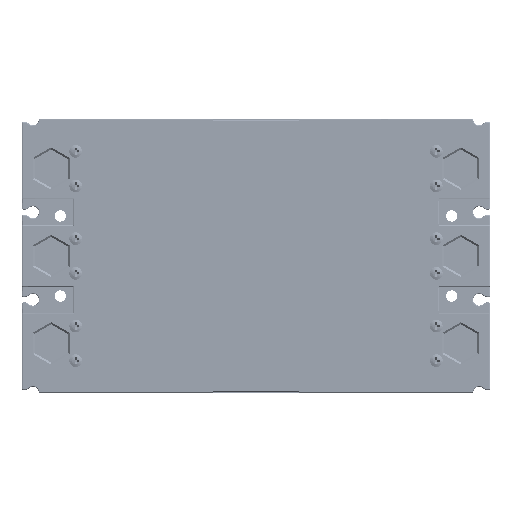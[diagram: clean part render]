
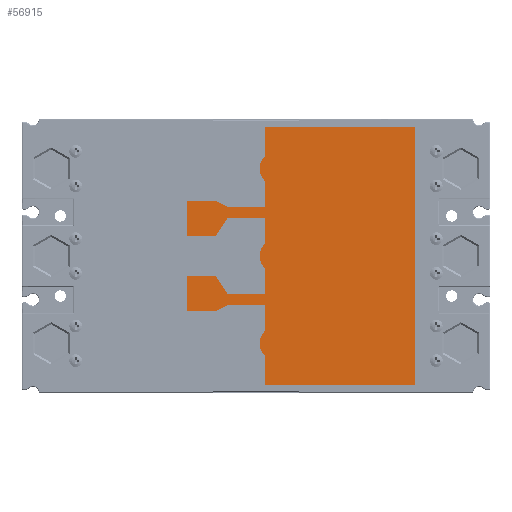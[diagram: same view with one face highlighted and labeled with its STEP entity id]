
A CAD part, front view. The second image highlights one B-rep face of the part: STEP entity #56915.
In plain terms, the highlighted planar face has unit normal (0, -1, 0) as drawn and (0, 0, 1) by its records, which use the part's own axes.
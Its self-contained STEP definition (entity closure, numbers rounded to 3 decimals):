
#56412=DIRECTION('',(0.,1.,0.));
#56413=VECTOR('',#56412,20.5);
#56414=CARTESIAN_POINT('',(27.1,82.5,0.8));
#56415=LINE('',#56414,#56413);
#56416=DIRECTION('',(-1.,0.,0.));
#56417=VECTOR('',#56416,13.972);
#56418=CARTESIAN_POINT('',(41.072,82.5,0.8));
#56419=LINE('',#56418,#56417);
#56420=CARTESIAN_POINT('',(48.,76.,0.8));
#56421=DIRECTION('',(0.,0.,1.));
#56422=DIRECTION('',(0.729,0.684,0.));
#56423=AXIS2_PLACEMENT_3D('',#56420,#56421,#56422);
#56425=DIRECTION('',(-1.,0.,0.));
#56426=VECTOR('',#56425,16.072);
#56427=CARTESIAN_POINT('',(71.,82.5,0.8));
#56428=LINE('',#56427,#56426);
#56429=DIRECTION('',(0.,1.,0.));
#56430=VECTOR('',#56429,82.5);
#56431=CARTESIAN_POINT('',(71.,0.,0.8));
#56432=LINE('',#56431,#56430);
#56433=DIRECTION('',(-1.,0.,0.));
#56434=VECTOR('',#56433,142.);
#56435=CARTESIAN_POINT('',(71.,0.,0.8));
#56436=LINE('',#56435,#56434);
#56437=DIRECTION('',(0.,-1.,0.));
#56438=VECTOR('',#56437,82.5);
#56439=CARTESIAN_POINT('',(-71.,82.5,0.8));
#56440=LINE('',#56439,#56438);
#56441=DIRECTION('',(-1.,0.,0.));
#56442=VECTOR('',#56441,16.072);
#56443=CARTESIAN_POINT('',(-54.928,82.5,0.8));
#56444=LINE('',#56443,#56442);
#56445=CARTESIAN_POINT('',(-48.,76.,0.8));
#56446=DIRECTION('',(0.,0.,1.));
#56447=DIRECTION('',(0.729,0.684,0.));
#56448=AXIS2_PLACEMENT_3D('',#56445,#56446,#56447);
#56450=DIRECTION('',(-1.,0.,0.));
#56451=VECTOR('',#56450,13.972);
#56452=CARTESIAN_POINT('',(-27.1,82.5,0.8));
#56453=LINE('',#56452,#56451);
#56454=DIRECTION('',(0.,-1.,0.));
#56455=VECTOR('',#56454,20.5);
#56456=CARTESIAN_POINT('',(-27.1,103.,0.8));
#56457=LINE('',#56456,#56455);
#56458=DIRECTION('',(0.436,-0.9,0.));
#56459=VECTOR('',#56458,7.223);
#56460=CARTESIAN_POINT('',(-30.25,109.5,0.8));
#56461=LINE('',#56460,#56459);
#56462=DIRECTION('',(0.,-1.,0.));
#56463=VECTOR('',#56462,16.);
#56464=CARTESIAN_POINT('',(-30.25,125.5,0.8));
#56465=LINE('',#56464,#56463);
#56466=DIRECTION('',(-1.,0.,0.));
#56467=VECTOR('',#56466,19.);
#56468=CARTESIAN_POINT('',(-11.25,125.5,0.8));
#56469=LINE('',#56468,#56467);
#56470=DIRECTION('',(0.,1.,0.));
#56471=VECTOR('',#56470,16.);
#56472=CARTESIAN_POINT('',(-11.25,109.5,0.8));
#56473=LINE('',#56472,#56471);
#56474=DIRECTION('',(0.829,0.559,0.));
#56475=VECTOR('',#56474,11.635);
#56476=CARTESIAN_POINT('',(-20.9,103.,0.8));
#56477=LINE('',#56476,#56475);
#56478=DIRECTION('',(0.,1.,0.));
#56479=VECTOR('',#56478,20.5);
#56480=CARTESIAN_POINT('',(-20.9,82.5,0.8));
#56481=LINE('',#56480,#56479);
#56482=DIRECTION('',(-1.,0.,0.));
#56483=VECTOR('',#56482,13.972);
#56484=CARTESIAN_POINT('',(-6.928,82.5,0.8));
#56485=LINE('',#56484,#56483);
#56486=CARTESIAN_POINT('',(0.,76.,0.8));
#56487=DIRECTION('',(0.,0.,1.));
#56488=DIRECTION('',(0.729,0.684,0.));
#56489=AXIS2_PLACEMENT_3D('',#56486,#56487,#56488);
#56491=DIRECTION('',(-1.,0.,0.));
#56492=VECTOR('',#56491,13.972);
#56493=CARTESIAN_POINT('',(20.9,82.5,0.8));
#56494=LINE('',#56493,#56492);
#56495=DIRECTION('',(0.,-1.,0.));
#56496=VECTOR('',#56495,20.5);
#56497=CARTESIAN_POINT('',(20.9,103.,0.8));
#56498=LINE('',#56497,#56496);
#56499=DIRECTION('',(0.829,-0.559,0.));
#56500=VECTOR('',#56499,11.635);
#56501=CARTESIAN_POINT('',(11.25,109.5,0.8));
#56502=LINE('',#56501,#56500);
#56503=DIRECTION('',(0.,-1.,0.));
#56504=VECTOR('',#56503,16.);
#56505=CARTESIAN_POINT('',(11.25,125.5,0.8));
#56506=LINE('',#56505,#56504);
#56507=DIRECTION('',(-1.,0.,0.));
#56508=VECTOR('',#56507,19.);
#56509=CARTESIAN_POINT('',(30.25,125.5,0.8));
#56510=LINE('',#56509,#56508);
#56511=DIRECTION('',(0.,1.,0.));
#56512=VECTOR('',#56511,16.);
#56513=CARTESIAN_POINT('',(30.25,109.5,0.8));
#56514=LINE('',#56513,#56512);
#56515=DIRECTION('',(0.436,0.9,0.));
#56516=VECTOR('',#56515,7.223);
#56517=CARTESIAN_POINT('',(27.1,103.,0.8));
#56518=LINE('',#56517,#56516);
#56623=CARTESIAN_POINT('',(-20.9,103.,0.8));
#56624=CARTESIAN_POINT('',(-11.25,109.5,0.8));
#56625=VERTEX_POINT('',#56623);
#56626=VERTEX_POINT('',#56624);
#56627=CARTESIAN_POINT('',(-11.25,125.5,0.8));
#56628=VERTEX_POINT('',#56627);
#56629=CARTESIAN_POINT('',(-30.25,125.5,0.8));
#56630=VERTEX_POINT('',#56629);
#56631=CARTESIAN_POINT('',(-30.25,109.5,0.8));
#56632=VERTEX_POINT('',#56631);
#56633=CARTESIAN_POINT('',(-27.1,103.,0.8));
#56634=VERTEX_POINT('',#56633);
#56635=CARTESIAN_POINT('',(27.1,103.,0.8));
#56636=CARTESIAN_POINT('',(30.25,109.5,0.8));
#56637=VERTEX_POINT('',#56635);
#56638=VERTEX_POINT('',#56636);
#56639=CARTESIAN_POINT('',(30.25,125.5,0.8));
#56640=VERTEX_POINT('',#56639);
#56641=CARTESIAN_POINT('',(11.25,125.5,0.8));
#56642=VERTEX_POINT('',#56641);
#56643=CARTESIAN_POINT('',(11.25,109.5,0.8));
#56644=VERTEX_POINT('',#56643);
#56645=CARTESIAN_POINT('',(20.9,103.,0.8));
#56646=VERTEX_POINT('',#56645);
#56665=CARTESIAN_POINT('',(71.,0.,0.8));
#56666=CARTESIAN_POINT('',(71.,82.5,0.8));
#56667=VERTEX_POINT('',#56665);
#56668=VERTEX_POINT('',#56666);
#56669=CARTESIAN_POINT('',(54.928,82.5,0.8));
#56670=VERTEX_POINT('',#56669);
#56671=CARTESIAN_POINT('',(41.072,82.5,0.8));
#56672=VERTEX_POINT('',#56671);
#56673=CARTESIAN_POINT('',(6.928,82.5,0.8));
#56674=CARTESIAN_POINT('',(-6.928,82.5,0.8));
#56675=VERTEX_POINT('',#56673);
#56676=VERTEX_POINT('',#56674);
#56677=CARTESIAN_POINT('',(-41.072,82.5,0.8));
#56678=CARTESIAN_POINT('',(-54.928,82.5,0.8));
#56679=VERTEX_POINT('',#56677);
#56680=VERTEX_POINT('',#56678);
#56681=CARTESIAN_POINT('',(-71.,82.5,0.8));
#56682=VERTEX_POINT('',#56681);
#56683=CARTESIAN_POINT('',(-20.9,82.5,0.8));
#56685=VERTEX_POINT('',#56683);
#56687=CARTESIAN_POINT('',(-27.1,82.5,0.8));
#56689=VERTEX_POINT('',#56687);
#56691=CARTESIAN_POINT('',(27.1,82.5,0.8));
#56693=VERTEX_POINT('',#56691);
#56695=CARTESIAN_POINT('',(20.9,82.5,0.8));
#56697=VERTEX_POINT('',#56695);
#56699=CARTESIAN_POINT('',(-71.,0.,0.8));
#56700=VERTEX_POINT('',#56699);
#56863=CARTESIAN_POINT('',(0.,0.,0.8));
#56864=DIRECTION('',(0.,0.,1.));
#56865=DIRECTION('',(1.,0.,0.));
#56866=AXIS2_PLACEMENT_3D('',#56863,#56864,#56865);
#56867=PLANE('',#56866);
#56869=ORIENTED_EDGE('',*,*,#56868,.F.);
#56871=ORIENTED_EDGE('',*,*,#56870,.F.);
#56873=ORIENTED_EDGE('',*,*,#56872,.F.);
#56875=ORIENTED_EDGE('',*,*,#56874,.F.);
#56877=ORIENTED_EDGE('',*,*,#56876,.F.);
#56878=ORIENTED_EDGE('',*,*,#56771,.T.);
#56879=ORIENTED_EDGE('',*,*,#56786,.F.);
#56880=ORIENTED_EDGE('',*,*,#56800,.F.);
#56881=ORIENTED_EDGE('',*,*,#56814,.F.);
#56882=ORIENTED_EDGE('',*,*,#56842,.F.);
#56884=ORIENTED_EDGE('',*,*,#56883,.F.);
#56886=ORIENTED_EDGE('',*,*,#56885,.F.);
#56888=ORIENTED_EDGE('',*,*,#56887,.F.);
#56890=ORIENTED_EDGE('',*,*,#56889,.F.);
#56892=ORIENTED_EDGE('',*,*,#56891,.F.);
#56894=ORIENTED_EDGE('',*,*,#56893,.F.);
#56895=ORIENTED_EDGE('',*,*,#56855,.F.);
#56896=ORIENTED_EDGE('',*,*,#56830,.F.);
#56898=ORIENTED_EDGE('',*,*,#56897,.F.);
#56900=ORIENTED_EDGE('',*,*,#56899,.F.);
#56902=ORIENTED_EDGE('',*,*,#56901,.F.);
#56904=ORIENTED_EDGE('',*,*,#56903,.F.);
#56906=ORIENTED_EDGE('',*,*,#56905,.F.);
#56908=ORIENTED_EDGE('',*,*,#56907,.F.);
#56910=ORIENTED_EDGE('',*,*,#56909,.F.);
#56912=ORIENTED_EDGE('',*,*,#56911,.F.);
#56913=EDGE_LOOP('',(#56869,#56871,#56873,#56875,#56877,#56878,#56879,#56880,
#56881,#56882,#56884,#56886,#56888,#56890,#56892,#56894,#56895,#56896,#56898,
#56900,#56902,#56904,#56906,#56908,#56910,#56912));
#56914=FACE_OUTER_BOUND('',#56913,.F.);
#56915=ADVANCED_FACE('',(#56914),#56867,.T.);
#56424=CIRCLE('',#56423,9.5);
#56449=CIRCLE('',#56448,9.5);
#56490=CIRCLE('',#56489,9.5);
#56771=EDGE_CURVE('',#56667,#56700,#56436,.T.);
#56786=EDGE_CURVE('',#56682,#56700,#56440,.T.);
#56800=EDGE_CURVE('',#56680,#56682,#56444,.T.);
#56814=EDGE_CURVE('',#56679,#56680,#56449,.T.);
#56830=EDGE_CURVE('',#56676,#56685,#56485,.T.);
#56842=EDGE_CURVE('',#56689,#56679,#56453,.T.);
#56855=EDGE_CURVE('',#56685,#56625,#56481,.T.);
#56868=EDGE_CURVE('',#56693,#56637,#56415,.T.);
#56870=EDGE_CURVE('',#56672,#56693,#56419,.T.);
#56872=EDGE_CURVE('',#56670,#56672,#56424,.T.);
#56874=EDGE_CURVE('',#56668,#56670,#56428,.T.);
#56876=EDGE_CURVE('',#56667,#56668,#56432,.T.);
#56883=EDGE_CURVE('',#56634,#56689,#56457,.T.);
#56885=EDGE_CURVE('',#56632,#56634,#56461,.T.);
#56887=EDGE_CURVE('',#56630,#56632,#56465,.T.);
#56889=EDGE_CURVE('',#56628,#56630,#56469,.T.);
#56891=EDGE_CURVE('',#56626,#56628,#56473,.T.);
#56893=EDGE_CURVE('',#56625,#56626,#56477,.T.);
#56897=EDGE_CURVE('',#56675,#56676,#56490,.T.);
#56899=EDGE_CURVE('',#56697,#56675,#56494,.T.);
#56901=EDGE_CURVE('',#56646,#56697,#56498,.T.);
#56903=EDGE_CURVE('',#56644,#56646,#56502,.T.);
#56905=EDGE_CURVE('',#56642,#56644,#56506,.T.);
#56907=EDGE_CURVE('',#56640,#56642,#56510,.T.);
#56909=EDGE_CURVE('',#56638,#56640,#56514,.T.);
#56911=EDGE_CURVE('',#56637,#56638,#56518,.T.);
